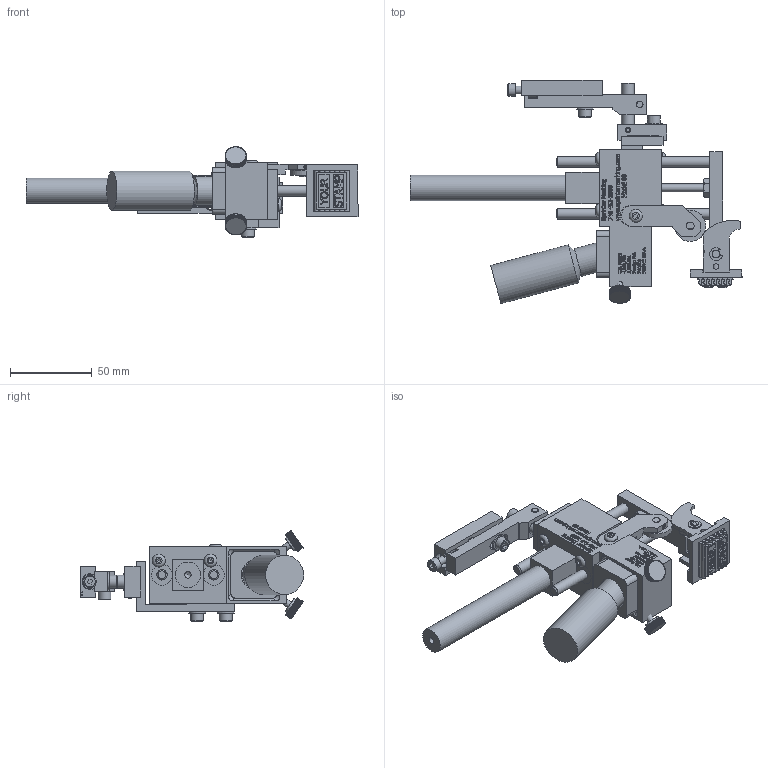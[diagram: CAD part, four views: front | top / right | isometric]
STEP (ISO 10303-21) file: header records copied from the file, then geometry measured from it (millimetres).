
FILE_DESCRIPTION((''),'2;1');
FILE_NAME('C:\Documents and Settings\Ron\My Documents\Inventor\Sprinter Drawing\Machines in Inventor\Model 88\Type\Std\Brkt\90\Model 88 STD 90 deg w brkt mod 2012.stp','2012-03-16T12:36:28',('Ron'),(''),'Autodesk Inventor 2011','Autodesk Inventor 2011','');
FILE_SCHEMA(('AUTOMOTIVE_DESIGN { 1 0 10303 214 1 1 1 1 }'));
Length unit declared in the file: inch
Products named in the file (43): Model 88  STD 90 deg w brkt mod 2012; 88 Frame Body; 66 Linear Bearing; Hexagon Socket Button Head Cap Screw - Inch 8 - 32 x 1/4; Hexagon Socket Head Cap Screw - Inch No. 8 - 32 UNC - 1 1/2; 10 Ink Resevior Lock Screw; INK RESERVOIR ASSY; 88 RESERVOIR; 88 Ink Pad; 66 INK BOTTLE; 88 STD Wheel Bractet Assy (prototype); 44 Wheel Retainer; 44 Cam Wheel; 88 Wheel Bracket Arm (prototype); Hexagon Socket Set Screw - Flat Point - Inch 4-48 UNF x 0.19; 8-32x0.25 Hexagon Socket Button Head Cap Screw ANSI/ASME B18.3; Standard 90 deg; 88 Rod Carrier 90 deg PROTOTYPE; 88 Rod Carrier; Type A - Hexagon Socket Set Screw - Cup Point - Inch 8-32 UNC x 0.32; 66 PIVOT SHAFT; 66 PIVOT SHAFT LOCKING RING; 23 66 invert block; AS 1112 (4)  - Metric M6; 66 Spring; 19 Rod Carrier Set Screws; Model 88, std .25 x 4; 88 CLIP FOR MODELS(2); 88--CLIP plate; Hexagon Socket Set Screw - Flat Point - Inch 6-32 UNC x 0.45; 88 baselock (model sized); 88 baselock STAMP; Model 88 RPB; rpb4; rpb3; rpb-1; rpb2; No. 10-24x0.88 Hexagon socket head cap screw ANSI/ASME B18.3; Type B - Plain Washer (Inch) No. 10 - narrow - Type B; 66 Machine Mounting Pivot Bracket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
Assembly tree (58 placements, depth 4):
  Model 88  STD 90 deg w brkt mod 2012
    88 Frame Body
    66 Linear Bearing  x2
    Hexagon Socket Button Head Cap Screw - Inch 8 - 32 x 1/4  x4
    Hexagon Socket Head Cap Screw - Inch No. 8 - 32 UNC - 1 1/2  x2
    10 Ink Resevior Lock Screw  x2
    INK RESERVOIR ASSY
      88 RESERVOIR
      88 Ink Pad
      66 INK BOTTLE
    88 STD Wheel Bractet Assy (prototype)
      44 Wheel Retainer
      44 Cam Wheel
      88 Wheel Bracket Arm (prototype)
      Hexagon Socket Set Screw - Flat Point - Inch 4-48 UNF x 0.19
    8-32x0.25 Hexagon Socket Button Head Cap Screw ANSI/ASME B18.3
    Standard 90 deg
    88 Rod Carrier 90 deg PROTOTYPE
      88 Rod Carrier
      Type A - Hexagon Socket Set Screw - Cup Point - Inch 8-32 UNC x 0.32
      66 PIVOT SHAFT
      66 PIVOT SHAFT LOCKING RING  x2
      23 66 invert block
      AS 1112 (4)  - Metric M6
      66 Spring
      19 Rod Carrier Set Screws  x2
      Model 88, std .25 x 4  x2
      88 CLIP FOR MODELS(2)
        88--CLIP plate
        Hexagon Socket Set Screw - Flat Point - Inch 6-32 UNC x 0.45
        88 baselock (model sized)
        88 baselock STAMP
    Model 88 RPB
      rpb4
      rpb3
      rpb-1
      rpb2
      No. 10-24x0.88 Hexagon socket head cap screw ANSI/ASME B18.3  x5
      Type B - Plain Washer (Inch) No. 10 - narrow - Type B  x4
      66 Machine Mounting Pivot Bracket
      Pin - Hardened Ground Machine Dowel (Inch) 1/8 x 3/4
      Pin - Hardened Ground Machine Dowel (Inch) 1/8 x 3/8
    10-32 PORTS DECAL
Bounding box: 203.21 x 136.58 x 55.4 mm (x, y, z)
Volume: 198802.4 mm3; surface area: 96340.7 mm2
Topology: 426 solids, 426 shells, 6401 faces, 15693 edges, 9719 vertices
Faces by surface type: plane 4457, bspline 1294, cylinder 560, cone 67, torus 23
Full cylindrical faces by diameter (mm): 1.143 x1, 2.261 x1, 2.54 x2, 2.642 x1, 2.845 x1, 3.175 x4, 3.2 x1, 3.302 x14, 3.505 x1, 3.556 x1, 3.683 x2, 3.962 x10, 4.064 x2, 4.166 x10, 4.547 x2, 4.699 x3, 4.75 x4, 4.775 x2, 4.826 x8, 4.864 x2, 4.917 x1, 5.055 x1, 5.156 x7, 5.359 x1, 5.556 x1, 6.325 x4, 6.35 x7, 6.426 x1, 6.604 x1, 6.858 x2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
Entity records: 152441 total; most frequent: CARTESIAN_POINT 45342, ORIENTED_EDGE 23844, DIRECTION 17236, EDGE_CURVE 11922, VECTOR 8520, LINE 8520, VERTEX_POINT 7658, EDGE_LOOP 5338
